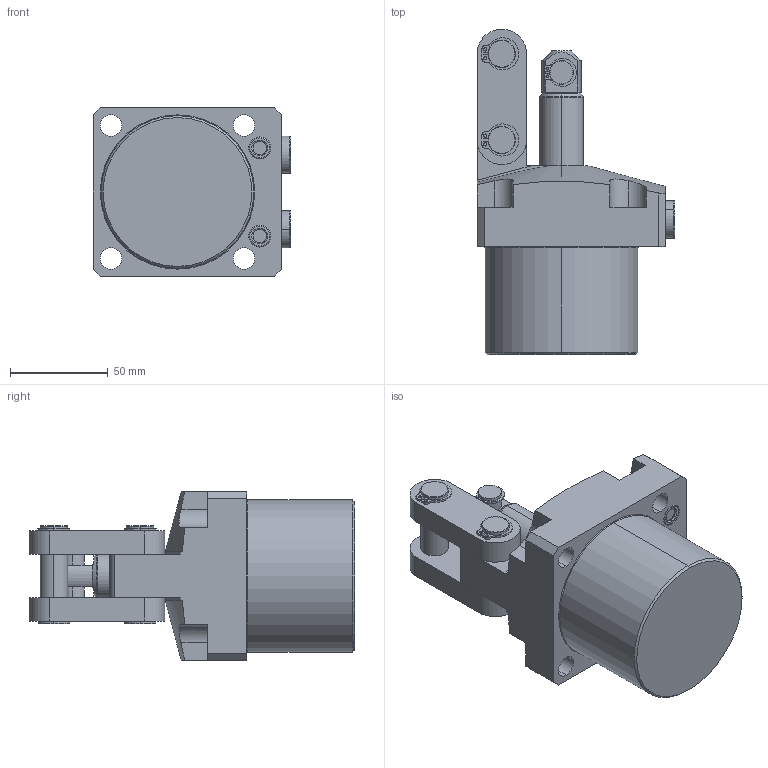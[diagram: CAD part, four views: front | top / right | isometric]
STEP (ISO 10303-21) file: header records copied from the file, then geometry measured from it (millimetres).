
FILE_DESCRIPTION(/* description */ (''),/* implementation_level */ '2;1');
FILE_NAME(/* name */ 'TPC16-F.stp',/* time_stamp */ '2025-01-05T10:27:53+08:00',/* author */ (''),/* organization */ (''),/* preprocessor_version */ 'ST-DEVELOPER v16.7',/* originating_system */ 'SIEMENS PLM Software NX 12.0',/* authorisation */ '');
FILE_SCHEMA (('AUTOMOTIVE_DESIGN { 1 0 10303 214 3 1 1 1 }'));
Length unit declared in the file: millimetre
Products named in the file (5): TPC16-F-01; TPC16-F-02; TPC16-F-03; TPC16-F-04; TPC16-F_stp
Assembly tree (5 placements, depth 2):
  TPC16-F_stp
    TPC16-F-04  x2
    TPC16-F-03
    TPC16-F-02
    TPC16-F-01
Bounding box: 100.8 x 166 x 86 mm (x, y, z)
Volume: 602682.9 mm3; surface area: 72405.2 mm2
Topology: 5 solids, 7 shells, 282 faces, 667 edges, 424 vertices
Faces by surface type: cylinder 116, plane 111, torus 34, cone 21
Entity records: 7871 total; most frequent: CARTESIAN_POINT 1477, DIRECTION 1411, ORIENTED_EDGE 1242, EDGE_CURVE 621, AXIS2_PLACEMENT_3D 562, VERTEX_POINT 396, EDGE_LOOP 303, CIRCLE 296
